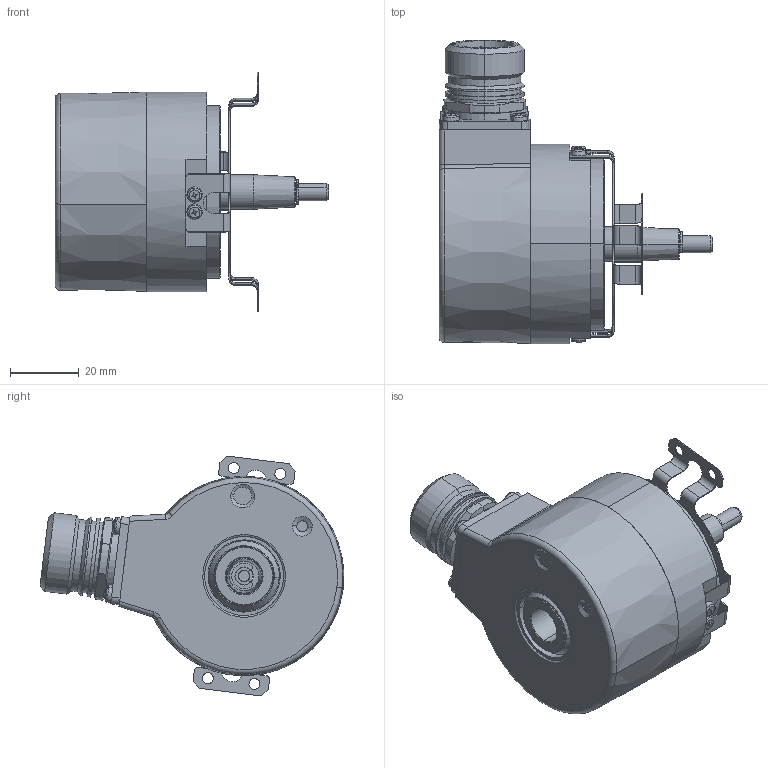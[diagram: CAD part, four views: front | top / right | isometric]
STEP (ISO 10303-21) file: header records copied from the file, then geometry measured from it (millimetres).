
FILE_DESCRIPTION (( 'STEP AP214' ), '1' );
FILE_NAME ('5834SIL.BKX4.XXXX.STEP', '2010-11-18T13:20:44', ( 'admin' ), ( 'Fritz Kübler GmbH' ), 'SwSTEP 2.0', 'SolidWorks 2009', '' );
FILE_SCHEMA (( 'AUTOMOTIVE_DESIGN' ));
Length unit declared in the file: millimetre
Products named in the file (1): 5834SIL.BKX4.XXXX
Bounding box: 79.5 x 88.28 x 69.69 mm (x, y, z)
Surface area: 29354.4 mm2 (no closed solid volume)
Topology: 0 solids, 40 shells, 549 faces, 1478 edges, 941 vertices
Faces by surface type: plane 218, cylinder 211, cone 44, torus 36, sphere 32, bspline 8
Entity records: 24319 total; most frequent: CARTESIAN_POINT 4199, DIRECTION 3238, ORIENTED_EDGE 2624, EDGE_CURVE 1454, AXIS2_PLACEMENT_3D 1280, VERTEX_POINT 941, CIRCLE 738, VECTOR 678
